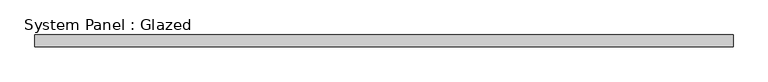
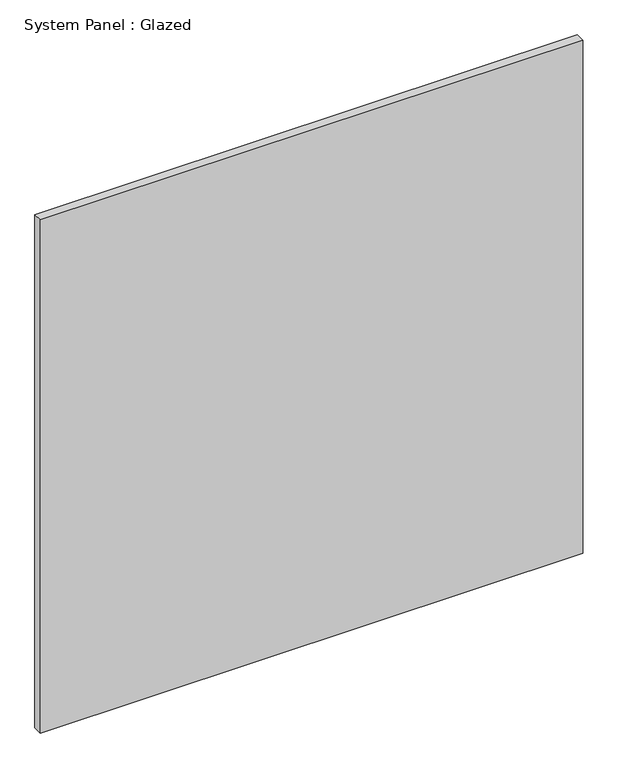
"""IFC4 building model written with IfcOpenShell, lengths in millimetres: plate geometry, System Panel : Glazed."""

from ifc_helpers import new_model, si_unit, origin, origin_with_axes, place, context, project, spatial, polyline, outline, extrude, source, transform, mapped, element, save


def system_panel_glazed_3c3c243d(model_context):
    return source(origin(), model_context, "Body", "SweptSolid", [
        extrude(outline(polyline([(724.5000002, 24.5), (-724.5000002, 24.5), (-724.5000002, 49.5), (724.5000002, 49.5), (724.5000002, 24.5)])), origin_with_axes(), (0.0, 0.0, 1.0), 1449.0),
    ])


if __name__ == "__main__":
    model = new_model("IFC4")
    model_context = context("Model", 3, world=origin())
    ifc_project = project(units=[si_unit("LENGTHUNIT", "METRE", prefix="MILLI")], contexts=[model_context])
    site = spatial("IfcSite", under=ifc_project)
    building = spatial("IfcBuilding", under=site)
    placement = place(None, origin())
    system_panel_glazed_shape = system_panel_glazed_3c3c243d(model_context)
    element("IfcPlate", 1, ObjectType="System Panel : Glazed", at=placement, inside=building, context=model_context, shape_type="MappedRepresentation", body=[
        mapped(system_panel_glazed_shape, transform((0.0, 0.0, 0.0), x_axis=(1.0, 0.0, 0.0), y_axis=(0.0, 1.0, 0.0), z_axis=(0.0, 0.0, 1.0))),
    ])
    save(model, "model.ifc")
